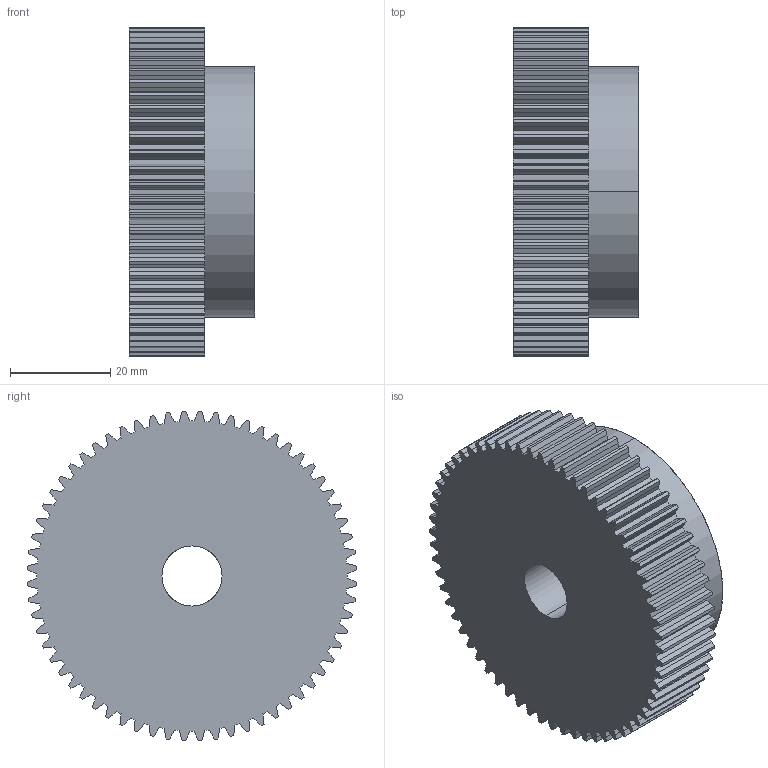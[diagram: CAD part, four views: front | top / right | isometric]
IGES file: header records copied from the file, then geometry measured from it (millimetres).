
Start section: SolidWorks IGES file using analytic representation for surfaces
Global section: file name: C:\Users\Honza\Desktop\Matis (Hotove)\Èelní ozubená kola\PM\MODUL 1\PM 26064.IGS; native system: SolidWorks 2010; preprocessor: SolidWorks 2010; author: Honza; date: 130923.154025; units: millimetre
Bounding box: 25 x 65.95 x 65.95 mm (x, y, z)
Surface area: 14376.3 mm2 (no closed solid volume)
Topology: 0 solids, 0 shells, 391 faces, 2512 edges, 2512 vertices
Faces by surface type: bspline 259, revolution 132
